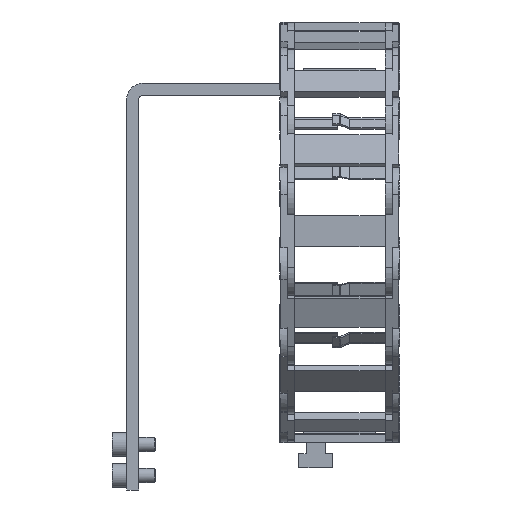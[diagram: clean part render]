
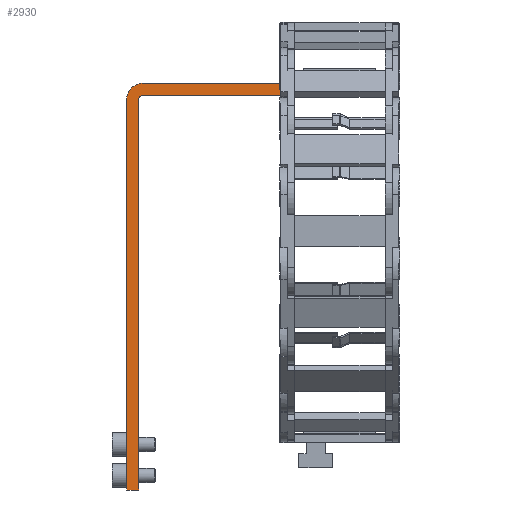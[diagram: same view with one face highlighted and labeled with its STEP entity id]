
A CAD part, left-side view. The second image highlights one B-rep face of the part: STEP entity #2930.
In plain terms, the highlighted planar face has unit normal (-1, 0, 0).
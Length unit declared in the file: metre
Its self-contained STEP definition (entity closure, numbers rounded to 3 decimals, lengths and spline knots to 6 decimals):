
#2930 = ADVANCED_FACE( '', ( #8185 ), #8186, .F. );
#8185 = FACE_OUTER_BOUND( '', #16191, .T. );
#8186 = PLANE( '', #16192 );
#16191 = EDGE_LOOP( '', ( #24273, #24274, #24275, #24276, #24277, #24278, #24279, #24280, #24281 ) );
#16192 = AXIS2_PLACEMENT_3D( '', #24282, #24283, #24284 );
#24273 = ORIENTED_EDGE( '', *, *, #48582, .T. );
#24274 = ORIENTED_EDGE( '', *, *, #48583, .F. );
#24275 = ORIENTED_EDGE( '', *, *, #48584, .T. );
#24276 = ORIENTED_EDGE( '', *, *, #48585, .T. );
#24277 = ORIENTED_EDGE( '', *, *, #48586, .T. );
#24278 = ORIENTED_EDGE( '', *, *, #48587, .T. );
#24279 = ORIENTED_EDGE( '', *, *, #48588, .T. );
#24280 = ORIENTED_EDGE( '', *, *, #48589, .F. );
#24281 = ORIENTED_EDGE( '', *, *, #48590, .F. );
#24282 = CARTESIAN_POINT( '', ( 0.035, 0.0939, 0.1353 ) );
#24283 = DIRECTION( '', ( 1., 0., 0. ) );
#24284 = DIRECTION( '', ( 0., 0., -1. ) );
#48582 = EDGE_CURVE( '', #58503, #58504, #58505, .F. );
#48583 = EDGE_CURVE( '', #58506, #58504, #58507, .T. );
#48584 = EDGE_CURVE( '', #58506, #58508, #58509, .T. );
#48585 = EDGE_CURVE( '', #58508, #58510, #58511, .T. );
#48586 = EDGE_CURVE( '', #58510, #58512, #58513, .T. );
#48587 = EDGE_CURVE( '', #58512, #58514, #58515, .T. );
#48588 = EDGE_CURVE( '', #58514, #58516, #58517, .T. );
#48589 = EDGE_CURVE( '', #58518, #58516, #58519, .T. );
#48590 = EDGE_CURVE( '', #58503, #58518, #58520, .T. );
#58503 = VERTEX_POINT( '', #73145 );
#58504 = VERTEX_POINT( '', #73146 );
#58505 = CIRCLE( '', #73147, 0.007 );
#58506 = VERTEX_POINT( '', #73148 );
#58507 = LINE( '', #73149, #73150 );
#58508 = VERTEX_POINT( '', #73151 );
#58509 = LINE( '', #73152, #73153 );
#58510 = VERTEX_POINT( '', #73154 );
#58511 = LINE( '', #73155, #73156 );
#58512 = VERTEX_POINT( '', #73157 );
#58513 = CIRCLE( '', #73158, 0.002 );
#58514 = VERTEX_POINT( '', #73159 );
#58515 = LINE( '', #73160, #73161 );
#58516 = VERTEX_POINT( '', #73162 );
#58517 = LINE( '', #73163, #73164 );
#58518 = VERTEX_POINT( '', #73165 );
#58519 = LINE( '', #73166, #73167 );
#58520 = LINE( '', #73168, #73169 );
#73145 = CARTESIAN_POINT( '', ( 0.035, 0.0869, 0.1403 ) );
#73146 = CARTESIAN_POINT( '', ( 0.035, 0.0939, 0.1333 ) );
#73147 = AXIS2_PLACEMENT_3D( '', #92720, #92721, #92722 );
#73148 = CARTESIAN_POINT( '', ( 0.035, 0.0939, -0.0297 ) );
#73149 = CARTESIAN_POINT( '', ( 0.035, 0.0939, 0.1353 ) );
#73150 = VECTOR( '', #92723, 1. );
#73151 = CARTESIAN_POINT( '', ( 0.035, 0.0889, -0.0297 ) );
#73152 = CARTESIAN_POINT( '', ( 0.035, 0.0939, -0.0297 ) );
#73153 = VECTOR( '', #92724, 1. );
#73154 = CARTESIAN_POINT( '', ( 0.035, 0.0889, 0.1333 ) );
#73155 = CARTESIAN_POINT( '', ( 0.035, 0.0889, -0.0297 ) );
#73156 = VECTOR( '', #92725, 1. );
#73157 = CARTESIAN_POINT( '', ( 0.035, 0.0869, 0.1353 ) );
#73158 = AXIS2_PLACEMENT_3D( '', #92726, #92727, #92728 );
#73159 = CARTESIAN_POINT( '', ( 0.035, -0.0191, 0.1353 ) );
#73160 = CARTESIAN_POINT( '', ( 0.035, 0.0939, 0.1353 ) );
#73161 = VECTOR( '', #92729, 1. );
#73162 = CARTESIAN_POINT( '', ( 0.035, -0.0191, 0.1403 ) );
#73163 = CARTESIAN_POINT( '', ( 0.035, -0.0191, 0.1353 ) );
#73164 = VECTOR( '', #92730, 1. );
#73165 = CARTESIAN_POINT( '', ( 0.035, 0.0299, 0.1403 ) );
#73166 = CARTESIAN_POINT( '', ( 0.035, 0.0939, 0.1403 ) );
#73167 = VECTOR( '', #92731, 1. );
#73168 = CARTESIAN_POINT( '', ( 0.035, 0.0939, 0.1403 ) );
#73169 = VECTOR( '', #92732, 1. );
#92720 = CARTESIAN_POINT( '', ( 0.035, 0.0869, 0.1333 ) );
#92721 = DIRECTION( '', ( 1., 0., 0. ) );
#92722 = DIRECTION( '', ( 0., 1., 0. ) );
#92723 = DIRECTION( '', ( 0., 0., 1. ) );
#92724 = DIRECTION( '', ( 0., -1., 0. ) );
#92725 = DIRECTION( '', ( 0., 0., 1. ) );
#92726 = CARTESIAN_POINT( '', ( 0.035, 0.0869, 0.1333 ) );
#92727 = DIRECTION( '', ( 1., 0., 0. ) );
#92728 = DIRECTION( '', ( 0., 1., 0. ) );
#92729 = DIRECTION( '', ( 0., -1., 0. ) );
#92730 = DIRECTION( '', ( 0., 0., 1. ) );
#92731 = DIRECTION( '', ( 0., -1., 0. ) );
#92732 = DIRECTION( '', ( 0., -1., 0. ) );
